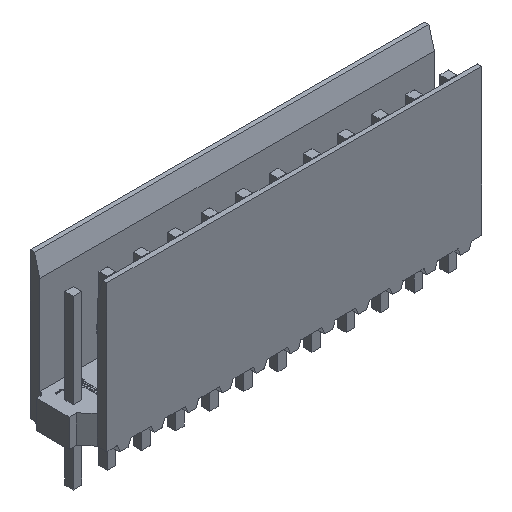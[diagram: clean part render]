
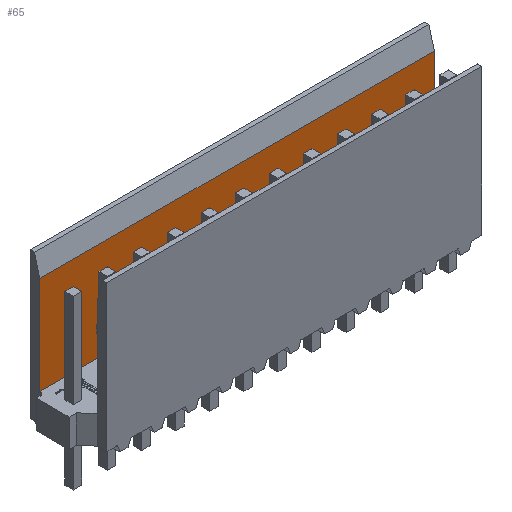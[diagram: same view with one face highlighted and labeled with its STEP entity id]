
A CAD part, isometric view. The second image highlights one B-rep face of the part: STEP entity #65.
In plain terms, the highlighted planar face has unit normal (0, -1, 0).
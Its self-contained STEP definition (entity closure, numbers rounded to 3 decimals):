
#65=ADVANCED_FACE('',(#444),#445,.T.);
#444=FACE_OUTER_BOUND('',#1160,.T.);
#445=PLANE('',#1161);
#1160=EDGE_LOOP('',(#2101,#2102,#2103,#2104));
#1161=AXIS2_PLACEMENT_3D('',#2105,#2106,#2107);
#2101=ORIENTED_EDGE('',*,*,#4894,.F.);
#2102=ORIENTED_EDGE('',*,*,#4747,.F.);
#2103=ORIENTED_EDGE('',*,*,#4886,.T.);
#2104=ORIENTED_EDGE('',*,*,#4893,.T.);
#2105=CARTESIAN_POINT('',(15.24,1.775,-8.8));
#2106=DIRECTION('',(0.0,-1.0,0.0));
#2107=DIRECTION('',(0.0,0.0,-1.0));
#4747=EDGE_CURVE('',#5722,#5725,#5726,.T.);
#4886=EDGE_CURVE('',#5722,#5988,#5989,.T.);
#4893=EDGE_CURVE('',#5988,#5999,#6001,.T.);
#4894=EDGE_CURVE('',#5725,#5999,#6002,.T.);
#5722=VERTEX_POINT('',#7289);
#5725=VERTEX_POINT('',#7293);
#5726=LINE('',#7294,#7295);
#5988=VERTEX_POINT('',#7666);
#5989=LINE('',#7667,#7668);
#5999=VERTEX_POINT('',#7683);
#6001=LINE('',#7686,#7687);
#6002=LINE('',#7688,#7689);
#7289=CARTESIAN_POINT('',(14.695,1.775,-8.8));
#7293=CARTESIAN_POINT('',(-14.695,1.775,-8.8));
#7294=CARTESIAN_POINT('',(14.695,1.775,-8.8));
#7295=VECTOR('',#9631,29.39);
#7666=CARTESIAN_POINT('',(14.695,1.775,-1.5));
#7667=CARTESIAN_POINT('',(14.695,1.775,-8.8));
#7668=VECTOR('',#9828,7.3);
#7683=CARTESIAN_POINT('',(-14.695,1.775,-1.5));
#7686=CARTESIAN_POINT('',(14.695,1.775,-1.5));
#7687=VECTOR('',#9835,29.39);
#7688=CARTESIAN_POINT('',(-14.695,1.775,-8.8));
#7689=VECTOR('',#9836,7.3);
#9631=DIRECTION('',(-1.0,0.0,0.0));
#9828=DIRECTION('',(0.0,0.0,1.0));
#9835=DIRECTION('',(-1.0,0.0,0.0));
#9836=DIRECTION('',(0.0,0.0,1.0));
